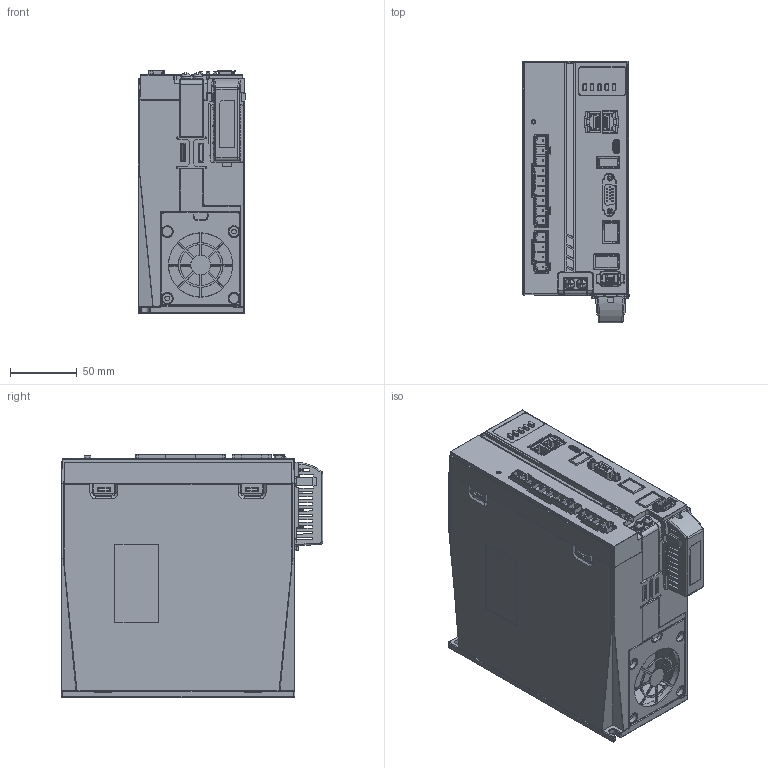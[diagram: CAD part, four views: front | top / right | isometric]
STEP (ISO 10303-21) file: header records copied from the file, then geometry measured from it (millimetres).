
FILE_DESCRIPTION((''),'2;1');
FILE_NAME('L6N-3000T_ASM','2023-06-29T',('Administrator'),(''),'PRO/ENGINEER BY PARAMETRIC TECHNOLOGY CORPORATION, 2010280','PRO/ENGINEER BY PARAMETRIC TECHNOLOGY CORPORATION, 2010280','');
FILE_SCHEMA(('CONFIG_CONTROL_DESIGN','SHAPE_APPEARANCE_LAYERS_GROUPS'));
Products named in the file (39): M4X10_GB818_1_1_1_1_1; D4_GB9074_26_1_1_1_1_1; D4_GB9074_24_1_1_1_1_1; M4X10_GB9074_4_ASM_1_ASM_1_ASM__ASM; PCB_RIGHT_1_1_1_1; PCB_R_6_1; RJ45_2X1__1_1_1; FUS606_REF_1_1; C-5788516-1-A-3D_Z_1_1; MANIFOLD_SOLID_BREP_55389_1; MANIFOLD_SOLID_BREP_55877_1; MANIFOLD_SOLID_BREP_56365_1; MANIFOLD_SOLID_BREP_56481_1; MANIFOLD_SOLID_BREP_56597_1; HDR15F_1_ASM_1_ASM_ASM_ASM; PCB_RIGHT_L7N_3KT_ASM_2_ASM_ASM_ASM; PCB_L8_2K_4_1; 9EDGRC_7_5_09P_1000A_2_1_1; 9EDGRC_7_5_04P_1000A_2_1_1; TR-27X33-1_2_1_1; TR-27X33-2_2_1_1; TR-27X33-ALL_ASM_1_ASM_1_ASM_AS_ASM; TR-27X33-ALL_ASM_ASM_1_ASM_ASM__ASM; PCB_POWER_L8_2K_ASM_3_ASM_ASM_1_ASM; PCB_ASM_18_3000_ASM_1_ASM_3_ASM_ASM; DB_L7_2000_1_4_1; L7-2000_Y_6_1; L7-2000_Z_1_1; GB_FAN_2_3_1; QWA_3_1_1; AWQ1_2_1_1; ASS_ASM_2_ASM_1_ASM_ASM_1_ASM_A_ASM; YKL_2_1; AJ_190117_____1_1_1; L7N-3000T_ASM_2_ASM_ASM_ASM; L7N-3000T_ASM_ASM_ASM_ASM; L7N-3KT1-QIANMIANKE-20230421; L7N-3000T_ASM_ASM_ASM; L6N-3000T_ASM
Assembly tree (40 placements, depth 9):
  L6N-3000T_ASM
    L7N-3000T_ASM_ASM_ASM
      L7N-3000T_ASM_ASM_ASM_ASM
        L7N-3000T_ASM_2_ASM_ASM_ASM
          M4X10_GB9074_4_ASM_1_ASM_1_ASM__ASM  x2
            M4X10_GB818_1_1_1_1_1
            D4_GB9074_26_1_1_1_1_1
            D4_GB9074_24_1_1_1_1_1
          PCB_ASM_18_3000_ASM_1_ASM_3_ASM_ASM
            PCB_RIGHT_L7N_3KT_ASM_2_ASM_ASM_ASM
              PCB_RIGHT_1_1_1_1
              PCB_R_6_1
              RJ45_2X1__1_1_1
              FUS606_REF_1_1
              C-5788516-1-A-3D_Z_1_1
              HDR15F_1_ASM_1_ASM_ASM_ASM
                MANIFOLD_SOLID_BREP_55389_1
                MANIFOLD_SOLID_BREP_55877_1
                MANIFOLD_SOLID_BREP_56365_1
                MANIFOLD_SOLID_BREP_56481_1
                MANIFOLD_SOLID_BREP_56597_1
            PCB_POWER_L8_2K_ASM_3_ASM_ASM_1_ASM
              PCB_L8_2K_4_1
              9EDGRC_7_5_09P_1000A_2_1_1
              9EDGRC_7_5_04P_1000A_2_1_1
              TR-27X33-ALL_ASM_ASM_1_ASM_ASM__ASM
                TR-27X33-ALL_ASM_1_ASM_1_ASM_AS_ASM
                  TR-27X33-1_2_1_1  x2
                  TR-27X33-2_2_1_1
          DB_L7_2000_1_4_1
          L7-2000_Y_6_1
          L7-2000_Z_1_1
          GB_FAN_2_3_1
          ASS_ASM_2_ASM_1_ASM_ASM_1_ASM_A_ASM
            QWA_3_1_1
            AWQ1_2_1_1
          YKL_2_1
          AJ_190117_____1_1_1
      L7N-3KT1-QIANMIANKE-20230421
Bounding box: 80.59 x 196 x 182.3 mm (x, y, z)
Volume: 621417 mm3; surface area: 458618.6 mm2
Topology: 30 solids, 33 shells, 7050 faces, 19713 edges, 12697 vertices
Faces by surface type: plane 4671, cylinder 1501, cone 386, torus 223, sphere 146, bspline 121, extrusion 2
Entity records: 278932 total; most frequent: CARTESIAN_POINT 48144, ORIENTED_EDGE 38718, DIRECTION 36322, EDGE_CURVE 19359, VECTOR 14416, LINE 14414, VERTEX_POINT 12559, AXIS2_PLACEMENT_3D 10953
